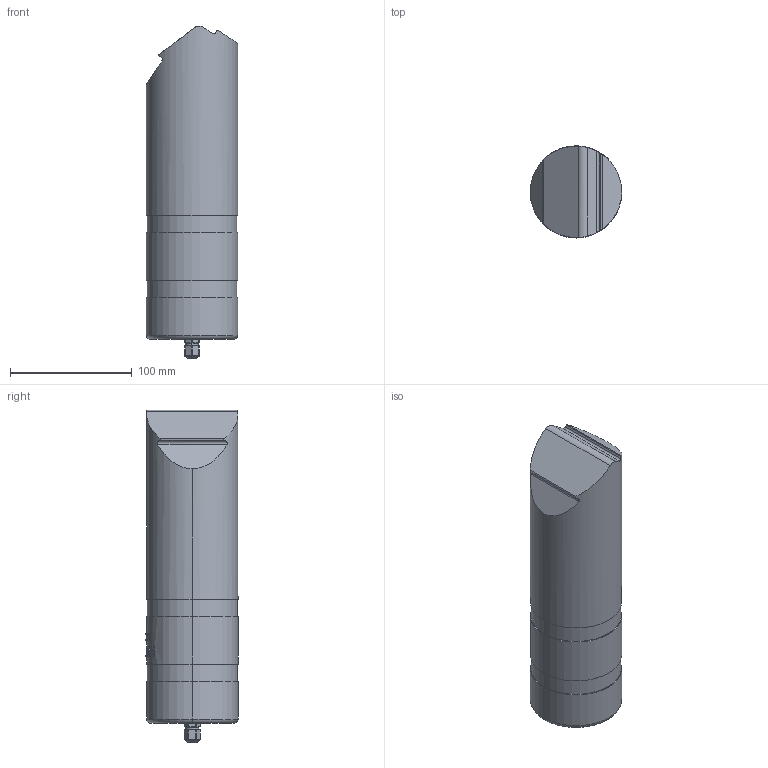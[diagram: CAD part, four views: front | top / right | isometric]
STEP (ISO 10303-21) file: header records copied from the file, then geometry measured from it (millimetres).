
FILE_DESCRIPTION((''),'2;1');
FILE_NAME('ASM0001_ASM','2025-12-30T10:39:21',('28740194'),(''),'CREO PARAMETRIC BY PTC INC, 2024063','CREO PARAMETRIC BY PTC INC, 2024063','');
FILE_SCHEMA(('CONFIG_CONTROL_DESIGN'));
Length unit declared in the file: millimetre
Products named in the file (3): KDF1300; 1572_08_035_2_5; ASM0001_ASM
Assembly tree (2 placements, depth 2):
  ASM0001_ASM
    KDF1300
    1572_08_035_2_5
Bounding box: 75 x 75.48 x 272.37 mm (x, y, z)
Volume: 1084244.7 mm3; surface area: 69184.6 mm2
Topology: 2 solids, 4 shells, 465 faces, 1260 edges, 832 vertices
Faces by surface type: bspline 234, plane 136, cylinder 68, cone 15, torus 12
Entity records: 19423 total; most frequent: CARTESIAN_POINT 8967, ORIENTED_EDGE 2516, DIRECTION 1524, EDGE_CURVE 1260, VERTEX_POINT 832, VECTOR 568, LINE 568, EDGE_LOOP 500
